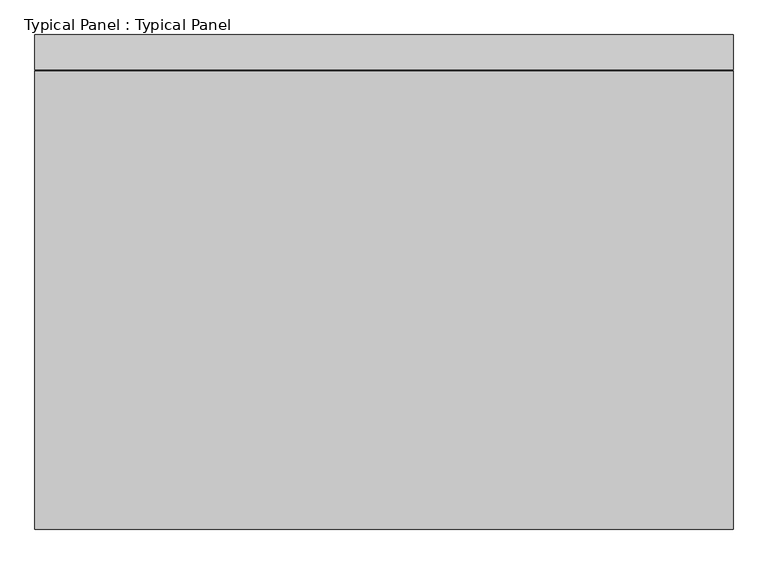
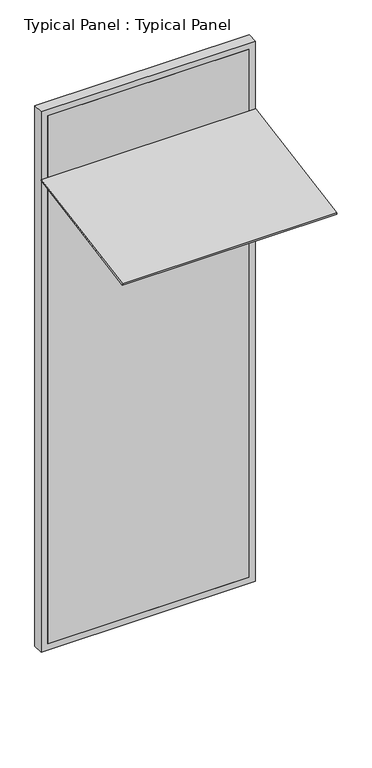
"""IFC4 building model written with IfcOpenShell, lengths in millimetres: plate geometry, Typical Panel : Typical Panel."""

from ifc_helpers import new_model, si_unit, frame, origin, place, context, project, spatial, polyline, outline, extrude, source, transform, mapped, element, save


def typical_panel_typical_panel_922f9ec0(model_context):
    return source(origin(), model_context, "Body", "SweptSolid", [
        extrude(outline(polyline([(0.0, -1000.0), (0.0, 0.0), (1500.0, 0.0), (1500.0, -1000.0), (0.0, -1000.0)])), frame((750.0, -988.0712712, 3316.5037448), z_axis=(0.0, -0.1736481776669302, 0.9848077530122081), x_axis=(-1.0, 0.0, 0.0)), (0.0, 0.0, 1.0), 10.0),
        extrude(outline(polyline([(0.0, -750.0), (0.0, 750.0), (4000.0, 750.0), (4000.0, -750.0), (0.0, -750.0)]), holes=[polyline([(45.0, 705.0), (45.0, -705.0), (3955.0, -705.0), (3955.0, 705.0), (45.0, 705.0)])]), frame((0.0, -1.5797986, 0.0), z_axis=(0.0, 1.0, 0.0), x_axis=(0.0, 0.0, 1.0)), (0.0, 0.0, 1.0), 75.0),
        extrude(outline(polyline([(705.0, -1.5797986), (-705.0, -1.5797986), (-705.0, 13.4202014), (705.0, 13.4202014), (705.0, -1.5797986)])), frame((0.0, 0.0, 45.0), z_axis=(0.0, 0.0, 1.0), x_axis=(1.0, 0.0, 0.0)), (0.0, 0.0, 1.0), 3910.0),
    ])


if __name__ == "__main__":
    model = new_model("IFC4")
    model_context = context("Model", 3, world=origin())
    ifc_project = project(units=[si_unit("LENGTHUNIT", "METRE", prefix="MILLI")], contexts=[model_context])
    site = spatial("IfcSite", under=ifc_project)
    building = spatial("IfcBuilding", under=site)
    placement = place(None, origin())
    typical_panel_typical_panel_shape = typical_panel_typical_panel_922f9ec0(model_context)
    element("IfcPlate", 1, ObjectType="Typical Panel : Typical Panel", at=placement, inside=building, context=model_context, shape_type="MappedRepresentation", body=[
        mapped(typical_panel_typical_panel_shape, transform((0.0, 0.0, 0.0), x_axis=(1.0, 0.0, 0.0), y_axis=(0.0, 1.0, 0.0), z_axis=(0.0, 0.0, 1.0))),
    ])
    save(model, "model.ifc")
